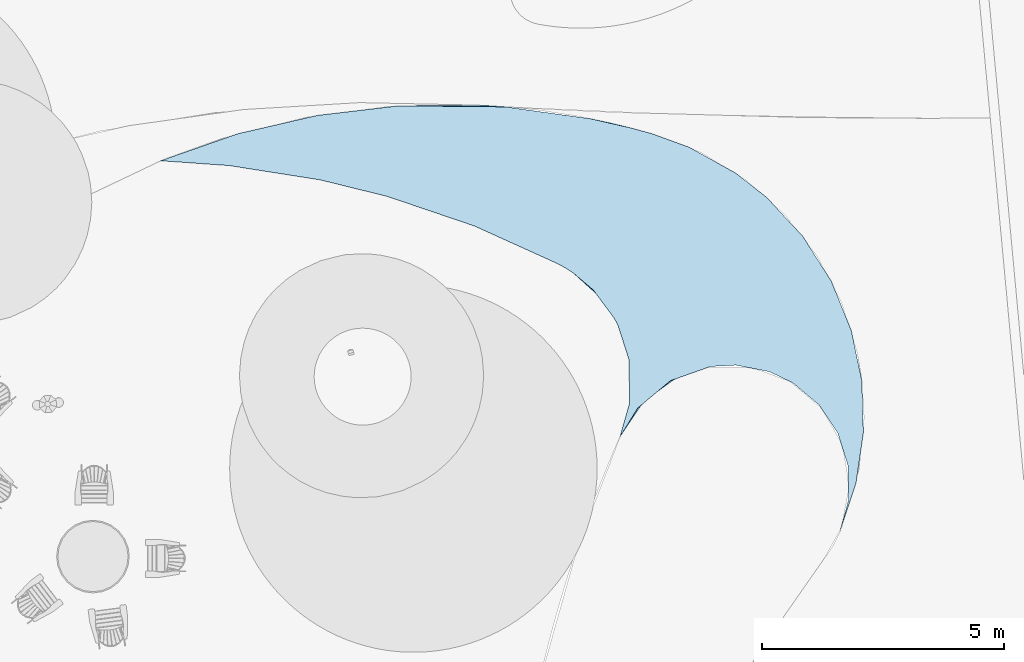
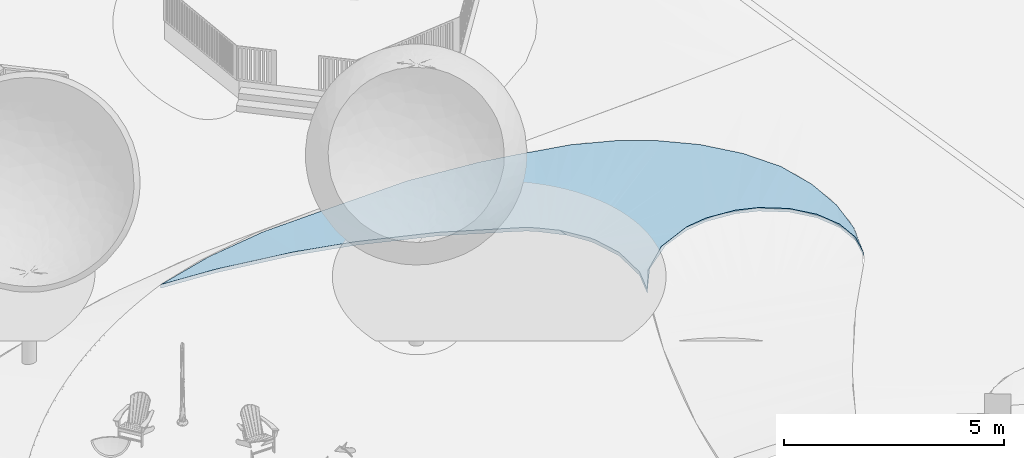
# One storey, part 47 of 75: 1 slab.
"""IFC2X3 building model written with IfcOpenShell, lengths in metres."""

from ifc_helpers import new_model, entity, si_unit, converted_unit, derived_unit, direction, origin, place, context, subcontext, project, spatial, face_set, surface_model, material, layer, layer_set, type_object, element, save


model = new_model("IFC2X3")

# Units and contexts
model_context = context("Model", 3, precision=1e-05, world=origin(), true_north=direction((6.123031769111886e-17, 1.0)))
body_context = subcontext(model_context, "Body", "Model", "MODEL_VIEW")
ifc_project = project(units=[si_unit("LENGTHUNIT", "METRE"), si_unit("AREAUNIT", "SQUARE_METRE"), si_unit("VOLUMEUNIT", "CUBIC_METRE"), converted_unit("PLANEANGLEUNIT", "DEGREE", entity("IfcRatioMeasure", 0.017453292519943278), si_unit("PLANEANGLEUNIT", "RADIAN"), dimensions=[0, 0, 0, 0, 0, 0, 0]), si_unit("MASSUNIT", "GRAM", prefix="KILO"), derived_unit("MASSDENSITYUNIT", [(si_unit("MASSUNIT", "GRAM", prefix="KILO"), 1), (si_unit("LENGTHUNIT", "METRE"), -3)]), derived_unit("IONCONCENTRATIONUNIT", [(si_unit("MASSUNIT", "GRAM", prefix="KILO"), 1), (si_unit("LENGTHUNIT", "METRE"), -3)]), derived_unit("MOMENTOFINERTIAUNIT", [(si_unit("LENGTHUNIT", "METRE"), 4)]), si_unit("TIMEUNIT", "SECOND"), si_unit("FREQUENCYUNIT", "HERTZ"), si_unit("THERMODYNAMICTEMPERATUREUNIT", "DEGREE_CELSIUS"), derived_unit("THERMALTRANSMITTANCEUNIT", [(si_unit("MASSUNIT", "GRAM", prefix="KILO"), 1), (si_unit("THERMODYNAMICTEMPERATUREUNIT", "KELVIN"), -1), (si_unit("TIMEUNIT", "SECOND"), -3)]), derived_unit("THERMALCONDUCTANCEUNIT", [(si_unit("MASSUNIT", "GRAM", prefix="KILO"), 1), (si_unit("THERMODYNAMICTEMPERATUREUNIT", "KELVIN"), -1), (si_unit("TIMEUNIT", "SECOND"), -3), (si_unit("LENGTHUNIT", "METRE"), 1)]), derived_unit("VOLUMETRICFLOWRATEUNIT", [(si_unit("LENGTHUNIT", "METRE"), 3), (si_unit("TIMEUNIT", "SECOND"), -1)]), derived_unit("MASSFLOWRATEUNIT", [(si_unit("MASSUNIT", "GRAM", prefix="KILO"), 1), (si_unit("TIMEUNIT", "SECOND"), -1)]), derived_unit("ROTATIONALFREQUENCYUNIT", [(si_unit("TIMEUNIT", "SECOND"), -1)]), si_unit("ELECTRICCURRENTUNIT", "AMPERE"), si_unit("ELECTRICVOLTAGEUNIT", "VOLT"), si_unit("POWERUNIT", "WATT"), si_unit("FORCEUNIT", "NEWTON", prefix="KILO"), si_unit("ILLUMINANCEUNIT", "LUX"), si_unit("LUMINOUSFLUXUNIT", "LUMEN"), si_unit("LUMINOUSINTENSITYUNIT", "CANDELA"), derived_unit("USERDEFINED", [(si_unit("MASSUNIT", "GRAM", prefix="KILO"), -1), (si_unit("LENGTHUNIT", "METRE"), -2), (si_unit("TIMEUNIT", "SECOND"), 3), (si_unit("LUMINOUSFLUXUNIT", "LUMEN"), 1)]), derived_unit("USERDEFINED", [(si_unit("MASSUNIT", "GRAM", prefix="KILO"), 1), (si_unit("TIMEUNIT", "SECOND"), -3), (si_unit("LENGTHUNIT", "METRE"), 3), (si_unit("ELECTRICCURRENTUNIT", "AMPERE"), -2)]), derived_unit("SOUNDPOWERUNIT", [(si_unit("MASSUNIT", "GRAM", prefix="KILO"), 1), (si_unit("TIMEUNIT", "SECOND"), -3), (si_unit("LENGTHUNIT", "METRE"), 2)]), derived_unit("SOUNDPRESSUREUNIT", [(si_unit("MASSUNIT", "GRAM", prefix="KILO"), 1), (si_unit("LENGTHUNIT", "METRE"), -1), (si_unit("TIMEUNIT", "SECOND"), -2)]), derived_unit("LINEARVELOCITYUNIT", [(si_unit("LENGTHUNIT", "METRE"), 1), (si_unit("TIMEUNIT", "SECOND"), -1)]), si_unit("PRESSUREUNIT", "PASCAL"), derived_unit("USERDEFINED", [(si_unit("MASSUNIT", "GRAM", prefix="KILO"), 1), (si_unit("LENGTHUNIT", "METRE"), -2), (si_unit("TIMEUNIT", "SECOND"), -2)]), derived_unit("LINEARFORCEUNIT", [(si_unit("MASSUNIT", "GRAM", prefix="KILO"), 1), (si_unit("TIMEUNIT", "SECOND"), -2)]), derived_unit("PLANARFORCEUNIT", [(si_unit("MASSUNIT", "GRAM", prefix="KILO"), 1), (si_unit("LENGTHUNIT", "METRE"), -1), (si_unit("TIMEUNIT", "SECOND"), -2)]), derived_unit("SPECIFICHEATCAPACITYUNIT", [(si_unit("THERMODYNAMICTEMPERATUREUNIT", "KELVIN"), -1), (si_unit("LENGTHUNIT", "METRE"), 2), (si_unit("TIMEUNIT", "SECOND"), -2)]), derived_unit("HEATINGVALUEUNIT", [(si_unit("LENGTHUNIT", "METRE"), 2), (si_unit("TIMEUNIT", "SECOND"), -2)]), derived_unit("VAPORPERMEABILITYUNIT", [(si_unit("LENGTHUNIT", "METRE"), -1), (si_unit("TIMEUNIT", "SECOND"), 1)]), derived_unit("DYNAMICVISCOSITYUNIT", [(si_unit("MASSUNIT", "GRAM", prefix="KILO"), 1), (si_unit("TIMEUNIT", "SECOND"), -1), (si_unit("LENGTHUNIT", "METRE"), -1)]), derived_unit("THERMALEXPANSIONCOEFFICIENTUNIT", [(si_unit("THERMODYNAMICTEMPERATUREUNIT", "KELVIN"), -1)]), derived_unit("MODULUSOFELASTICITYUNIT", [(si_unit("MASSUNIT", "GRAM", prefix="KILO"), 1), (si_unit("LENGTHUNIT", "METRE"), -1), (si_unit("TIMEUNIT", "SECOND"), -2)]), derived_unit("ISOTHERMALMOISTURECAPACITYUNIT", [(si_unit("LENGTHUNIT", "METRE"), 3), (si_unit("MASSUNIT", "GRAM", prefix="KILO"), -1)]), derived_unit("MOISTUREDIFFUSIVITYUNIT", [(si_unit("TIMEUNIT", "SECOND"), -1), (si_unit("LENGTHUNIT", "METRE"), 2)])], contexts=[model_context])

# Site, building, storey
site_placement = place(None, origin())
site = spatial("IfcSite", under=ifc_project, at=site_placement, Name="Default", CompositionType="ELEMENT")
building_placement = place(site_placement, origin())
building = spatial("IfcBuilding", under=site, at=building_placement, Name="Projeto", CompositionType="ELEMENT")
storey_placement = place(building_placement, origin())
storey = spatial("IfcBuildingStorey", under=building, at=storey_placement, Name="Nível 1", CompositionType="ELEMENT", Elevation=0.0)

# Slab
ifc_material = material(Name="cacao")
ifc_layer = layer(ifc_material, 0.1)
ifc_layer_set = layer_set([ifc_layer], Name="Piso:Piso cacão")
slab_type = type_object("IfcSlabType", Name="Piso:Piso cacão", PredefinedType="FLOOR", material=ifc_layer_set)
slab_placement = place(storey_placement, origin())
element("IfcSlab", 1, at=slab_placement, inside=storey, type_object=slab_type, material=ifc_material, Name="Piso:Piso cacão", ObjectType="Piso:Piso cacão", PredefinedType="FLOOR", context=body_context, shape_type="SurfaceModel", body=[
    surface_model("IfcFaceBasedSurfaceModel", [(12.975366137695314, 24.508262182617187, -2.3666667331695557), (12.975366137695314, 24.508262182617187, -2.4666665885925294), (12.178748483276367, 24.229718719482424, -2.4083333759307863), (14.619830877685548, 24.887532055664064, -2.483333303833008), (14.619830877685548, 24.887532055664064, -2.5833333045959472), (13.79759850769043, 24.697897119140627, -2.5249999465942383), (13.79759850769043, 24.697897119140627, -2.4249999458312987), (11.382131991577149, 23.951175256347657, -2.3500000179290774), (12.300493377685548, 24.27228821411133, -2.317248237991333), (15.457950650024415, 24.986019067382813, -2.6416666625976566), (15.457950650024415, 24.986019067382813, -2.541666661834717), (16.29607158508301, 25.084506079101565, -2.600000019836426), (16.29607158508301, 25.084506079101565, -2.7000000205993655), (17.396348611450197, 25.074134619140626, -2.566666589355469), (17.17659923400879, 25.088805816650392, -2.6733333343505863), (11.382131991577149, 23.951175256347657, -2.250000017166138), (19.148934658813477, 24.95714408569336, -2.6133332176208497), (18.49662680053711, 25.063765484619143, -2.5333334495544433), (19.368684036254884, 24.942475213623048, -2.506666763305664), (20.240741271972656, 24.8211826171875, -2.5800000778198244), (20.240741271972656, 24.8211826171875, -2.480000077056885), (21.09963070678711, 24.62546433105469, -2.4533333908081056), (20.671568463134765, 24.72947426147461, -2.566666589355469), (18.0571280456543, 25.09310555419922, -2.6466666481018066), (21.524593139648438, 24.509231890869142, -2.43999990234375), (21.524593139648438, 24.509231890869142, -2.5399999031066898), (23.251510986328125, 23.697132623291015, -2.2484351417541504), (23.896939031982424, 23.190303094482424, -2.166335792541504), (23.896939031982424, 23.190303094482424, -2.2663357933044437), (23.251510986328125, 23.697132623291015, -2.34843514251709), (24.63979833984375, 22.387807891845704, -2.056870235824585), (24.932978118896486, 21.9262872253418, -2.002137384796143), (24.932978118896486, 21.9262872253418, -2.102137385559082), (24.63979833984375, 22.387807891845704, -2.1568702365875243), (22.773621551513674, 23.962821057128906, -2.3031679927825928), (22.773621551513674, 23.962821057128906, -2.4031679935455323), (22.29573211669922, 24.228509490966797, -2.3579006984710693), (25.22615789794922, 21.464764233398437, -1.9474045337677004), (25.22615789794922, 21.464764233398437, -2.0474045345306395), (24.268367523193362, 22.789055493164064, -2.1116030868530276), (24.268367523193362, 22.789055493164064, -2.2116030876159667), (22.29573211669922, 24.228509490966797, -2.4579008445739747), (25.636888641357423, 20.451286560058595, -1.937938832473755), (25.43152443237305, 20.958025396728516, -1.9926716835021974), (25.43152443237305, 20.958025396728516, -1.892671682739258), (25.636888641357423, 20.451286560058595, -1.8379388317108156), (25.732526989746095, 17.2892888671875, -1.7633846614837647), (25.887538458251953, 18.3434384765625, -1.8215694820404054), (25.887538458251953, 18.3434384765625, -1.721569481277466), (25.732526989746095, 17.2892888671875, -1.6633846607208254), (25.39509409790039, 16.27864474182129, -1.6051999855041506), (25.39509409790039, 16.27864474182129, -1.70519998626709), (25.85532647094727, 19.4084350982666, -1.8797541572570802), (25.85532647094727, 19.4084350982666, -1.7797541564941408), (25.51582161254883, 17.828430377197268, -1.8370909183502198), (25.51582161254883, 17.828430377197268, -1.7370909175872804), (25.56841142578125, 17.660583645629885, -1.722436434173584), (25.56841142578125, 17.660583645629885, -1.8224364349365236), (21.904942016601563, 19.41247438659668, -2.1181090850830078), (21.820765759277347, 19.34209844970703, -2.1272681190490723), (21.883320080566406, 19.365910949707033, -2.22177267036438), (25.0648142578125, 18.770646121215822, -1.8250182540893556), (25.0648142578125, 18.770646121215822, -1.925018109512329), (24.967069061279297, 18.916872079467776, -1.9396727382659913), (24.967069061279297, 18.916872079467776, -1.839672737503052), (25.35804984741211, 18.33196824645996, -1.781054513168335), (25.35804984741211, 18.33196824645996, -1.8810545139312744), (25.162559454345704, 18.62442016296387, -1.910363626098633), (25.162559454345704, 18.62442016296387, -1.8103636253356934), (24.832088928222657, 19.02963496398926, -1.9543272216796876), (24.832088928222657, 19.02963496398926, -1.854327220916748), (21.527390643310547, 19.10914638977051, -2.2584090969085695), (21.616373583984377, 19.173337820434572, -2.249250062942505), (21.56823698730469, 19.130968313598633, -2.154745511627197), (23.950393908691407, 19.595913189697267, -2.042254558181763), (23.950393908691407, 19.595913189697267, -1.9422545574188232), (24.42715085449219, 19.36792361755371, -1.8982909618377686), (24.42715085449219, 19.36792361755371, -1.9982909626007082), (24.69711112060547, 19.142397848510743, -1.8689818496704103), (24.69711112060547, 19.142397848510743, -1.9689818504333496), (21.28848662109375, 18.88952607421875, -2.2858863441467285), (21.349427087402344, 18.98076469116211, -2.276727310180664), (21.31570588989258, 18.919838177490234, -2.1822227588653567), (21.139125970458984, 18.699809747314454, -2.206036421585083), (21.105669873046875, 18.615809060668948, -2.313363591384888), (21.16661033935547, 18.707047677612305, -2.3042045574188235), (25.443844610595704, 16.456474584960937, -1.620563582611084), (22.229129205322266, 19.54688362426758, -2.188799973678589), (22.313054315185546, 19.573179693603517, -2.181472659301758), (22.31880745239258, 19.558564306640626, -2.0814726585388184), (25.58109669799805, 16.95713588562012, -1.7638182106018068), (25.58109669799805, 16.95713588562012, -1.6638182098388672), (25.48809539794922, 16.617890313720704, -1.6345090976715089), (25.48809539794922, 16.617890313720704, -1.7345090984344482), (21.399882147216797, 18.99021527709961, -2.1730635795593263), (25.577924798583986, 17.132998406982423, -1.7784726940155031), (25.577924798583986, 17.132998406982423, -1.6784726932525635), (25.463229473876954, 17.99627594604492, -1.7517454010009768), (25.463229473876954, 17.99627594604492, -1.851745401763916), (21.972300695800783, 19.430102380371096, -2.2126136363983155), (22.06128363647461, 19.49429264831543, -2.203454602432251), (22.008407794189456, 19.448996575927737, -2.1089500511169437), (25.574752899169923, 17.308859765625, -1.6931273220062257), (25.574752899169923, 17.308859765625, -1.793127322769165), (21.0929241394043, 18.624982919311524, -2.2133635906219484), (21.04672230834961, 18.55015725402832, -2.2206909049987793), (21.484058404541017, 19.06059121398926, -2.1639045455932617), (21.70535419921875, 19.237529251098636, -2.2400908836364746), (21.652413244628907, 19.201344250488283, -2.1455863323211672), (21.22754848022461, 18.798286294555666, -2.295045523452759), (21.23152963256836, 18.84946107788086, -2.191381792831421), (20.86191498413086, 18.250852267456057, -2.250000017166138), (20.86191498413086, 18.250852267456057, -2.3500000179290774), (20.954318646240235, 18.400504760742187, -2.2353453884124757), (21.43840770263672, 19.04495612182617, -2.267568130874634), (22.111873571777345, 19.485519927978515, -2.0997908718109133), (20.983793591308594, 18.433330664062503, -2.3316818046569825), (22.732670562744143, 19.704655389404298, -2.1448363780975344), (22.732670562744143, 19.704655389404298, -2.044836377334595), (22.564822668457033, 19.652065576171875, -2.1594908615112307), (21.736589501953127, 19.271721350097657, -2.1364272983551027), (21.79433713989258, 19.30171951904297, -2.2309318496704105), (23.777878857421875, 19.630194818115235, -1.9569090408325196), (23.777878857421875, 19.630194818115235, -2.056909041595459), (23.605366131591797, 19.664476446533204, -2.0715636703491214), (23.605366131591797, 19.664476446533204, -1.9715636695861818), (23.260338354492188, 19.733037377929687, -2.0008727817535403), (23.260338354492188, 19.733037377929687, -2.1008727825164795), (22.396977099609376, 19.599473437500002, -2.174145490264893), (22.52573900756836, 19.631611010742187, -2.0631545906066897), (22.215341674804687, 19.522043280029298, -2.0906318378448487), (22.42227322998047, 19.59508765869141, -2.072313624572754), (21.044731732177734, 18.52456928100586, -2.322522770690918), (25.44159358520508, 16.44826810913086, -1.719854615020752), (25.746107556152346, 19.929860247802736, -1.8088465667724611), (25.563809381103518, 16.78396738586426, -1.6342923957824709), (25.87143246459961, 18.875937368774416, -1.7506617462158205), (25.8100315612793, 17.816363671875, -1.6924770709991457), (25.746107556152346, 19.929860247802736, -1.9088465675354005), (25.563809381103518, 16.78396738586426, -1.7342923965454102), (25.87143246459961, 18.875937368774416, -1.8506617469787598), (25.8100315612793, 17.816363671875, -1.792477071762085), (20.961762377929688, 18.598987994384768, -2.3500000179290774), (20.961762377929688, 18.598987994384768, -2.250000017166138), (20.936905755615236, 20.195839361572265, -2.3500000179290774), (20.936905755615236, 20.195839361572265, -2.250000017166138), (21.047538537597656, 19.850981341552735, -2.250000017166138), (21.047538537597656, 19.850981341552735, -2.3500000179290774), (21.05457299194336, 19.399051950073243, -2.250000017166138), (21.05457299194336, 19.399051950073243, -2.3500000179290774), (20.826272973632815, 20.54069970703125, -2.250000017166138), (20.826272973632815, 20.54069970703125, -2.3500000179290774), (20.786135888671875, 20.622145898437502, -2.3500000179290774), (20.786135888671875, 20.622145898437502, -2.250000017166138), (21.061607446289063, 18.947123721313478, -2.250000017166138), (21.061607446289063, 18.947123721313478, -2.3500000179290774), (20.743352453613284, 20.702231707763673, -2.3500000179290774), (20.743352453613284, 20.702231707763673, -2.250000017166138), (20.433843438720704, 21.149527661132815, -2.3500000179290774), (20.527626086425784, 20.99314418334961, -2.250000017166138), (19.89706224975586, 21.63587471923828, -2.250000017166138), (19.89706224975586, 21.63587471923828, -2.3500000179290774), (19.744425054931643, 21.73421290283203, -2.3500000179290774), (19.744425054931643, 21.73421290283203, -2.250000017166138), (20.16545284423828, 21.392701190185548, -2.3500000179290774), (19.585674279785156, 21.822344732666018, -2.3500000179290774), (19.585674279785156, 21.822344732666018, -2.250000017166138), (20.311902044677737, 21.284056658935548, -2.250000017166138), (17.856677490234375, 22.605103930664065, -2.3500000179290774), (18.47831047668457, 22.323676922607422, -2.250000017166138), (18.721177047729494, 22.213725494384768, -2.3500000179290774), (16.95808233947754, 22.91016670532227, -2.3500000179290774), (16.95808233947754, 22.91016670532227, -2.250000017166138), (17.856677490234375, 22.605103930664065, -2.250000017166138), (16.059487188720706, 23.21522947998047, -2.3500000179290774), (16.059487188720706, 23.21522947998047, -2.250000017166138), (14.677163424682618, 23.55595751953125, -2.3500000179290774), (14.677163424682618, 23.55595751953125, -2.250000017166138), (13.739729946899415, 23.70345316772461, -2.3500000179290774), (13.739729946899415, 23.70345316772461, -2.250000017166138), (12.80229646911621, 23.850951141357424, -2.250000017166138), (12.80229646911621, 23.850951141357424, -2.3500000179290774), (21.460524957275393, 22.41618522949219, -2.2713725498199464), (20.419762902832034, 21.13860042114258, -2.250000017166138), (21.530560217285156, 22.874994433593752, -2.29574024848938), (20.710826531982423, 23.07255446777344, -2.345000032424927), (21.111339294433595, 23.255694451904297, -2.343561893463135), (21.770461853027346, 22.39460050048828, -2.2568449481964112), (20.635489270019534, 20.847687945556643, -2.250000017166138), (21.98401160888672, 22.202588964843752, -2.237346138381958), (20.20819209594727, 21.372011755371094, -2.250000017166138), (21.180697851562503, 22.907671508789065, -2.313215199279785), (22.01571199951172, 24.330447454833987, -2.3877131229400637), (20.1044821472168, 21.45996685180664, -2.250000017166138), (19.989531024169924, 21.557453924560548, -2.250000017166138), (23.574200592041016, 23.443685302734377, -2.2073854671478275), (22.516051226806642, 22.38836134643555, -2.2164466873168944), (22.32013760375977, 21.946260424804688, -2.208167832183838), (23.31479549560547, 21.44746994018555, -2.105586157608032), (20.764744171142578, 20.662189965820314, -2.250000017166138), (23.77391630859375, 22.822020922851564, -2.1534992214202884), (23.60585912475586, 22.318877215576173, -2.1359610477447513), (23.023734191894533, 20.576060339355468, -2.0752112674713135), (20.7977235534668, 20.5986310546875, -2.250000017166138), (20.809308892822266, 20.575118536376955, -2.250000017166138), (20.670182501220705, 24.72330487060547, -2.4666665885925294), (20.38334187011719, 23.12619305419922, -2.349110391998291), (20.10313804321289, 22.88581237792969, -2.3319918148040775), (19.67248991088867, 21.77414767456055, -2.250000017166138), (19.93124853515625, 22.809044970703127, -2.3260311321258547), (19.81359060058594, 21.68965283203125, -2.250000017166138), (20.349995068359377, 22.70535130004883, -2.3201749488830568), (20.688065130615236, 23.032368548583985, -2.342342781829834), (20.781278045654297, 23.68091035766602, -2.3869570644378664), (20.4554583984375, 24.772229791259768, -2.473333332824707), (20.27536008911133, 23.79763811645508, -2.399287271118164), (21.312110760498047, 24.567342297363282, -2.446666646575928), (19.90404321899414, 23.279809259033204, -2.3617833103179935), (21.051056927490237, 19.625016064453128, -2.250000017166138), (21.05809138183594, 19.17308783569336, -2.250000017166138), (21.073690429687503, 18.59381156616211, -2.2164154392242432), (15.368324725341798, 23.38559349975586, -2.250000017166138), (14.208446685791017, 23.629706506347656, -2.250000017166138), (11.899053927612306, 23.914693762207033, -2.250000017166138), (12.17875080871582, 24.22970941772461, -2.3083333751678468), (16.846210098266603, 25.07931569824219, -2.5833333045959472), (16.945077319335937, 22.91458271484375, -2.250000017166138), (18.28892668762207, 22.409415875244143, -2.250000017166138), (18.932652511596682, 25.00310174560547, -2.519999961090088), (17.94648712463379, 25.068939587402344, -2.5499998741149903), (17.400877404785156, 22.75984332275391, -2.250000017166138), (19.15342624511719, 22.018035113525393, -2.250000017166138), (18.721177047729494, 22.213725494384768, -2.250000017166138), (19.804707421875, 24.881804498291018, -2.4933332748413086), (16.50228225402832, 23.06490609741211, -2.250000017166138), (22.99650329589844, 19.718842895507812, -2.0228545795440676), (24.12603435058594, 19.51191134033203, -1.926057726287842), (20.72694880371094, 22.682685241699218, -2.4128262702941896), (20.92600642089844, 23.452445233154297, -2.4701201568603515), (21.91016262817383, 24.36887069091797, -2.4989503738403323), (21.16161762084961, 22.905239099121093, -2.4138198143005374), (21.477635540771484, 22.83739440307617, -2.3956600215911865), (20.29964930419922, 21.271113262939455, -2.3500000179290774), (21.57091821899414, 22.532094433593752, -2.3730659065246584), (21.677383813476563, 22.228433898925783, -2.3530280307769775), (20.076539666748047, 21.473261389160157, -2.3500000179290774), (22.73707494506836, 22.27520778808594, -2.297106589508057), (20.66597578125, 20.814055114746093, -2.3500000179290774), (22.088054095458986, 22.264452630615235, -2.3347967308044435), (20.58859910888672, 20.925878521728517, -2.3500000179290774), (20.511220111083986, 21.03770425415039, -2.3500000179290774), (23.574200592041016, 23.443685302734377, -2.3073854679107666), (23.31479549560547, 21.44746994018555, -2.2055861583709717), (20.764744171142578, 20.662189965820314, -2.3500000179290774), (23.77391630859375, 22.822020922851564, -2.2534992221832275), (23.60585912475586, 22.318877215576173, -2.2359610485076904), (23.023734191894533, 20.576060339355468, -2.175211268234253), (20.7977235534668, 20.5986310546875, -2.3500000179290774), (20.809308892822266, 20.575118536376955, -2.3500000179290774), (19.900929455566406, 22.7332728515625, -2.420337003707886), (19.67248991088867, 21.77414767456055, -2.3500000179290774), (19.81359060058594, 21.68965283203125, -2.3500000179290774), (20.25795650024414, 22.83267608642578, -2.428528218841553), (20.338179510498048, 22.669100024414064, -2.417732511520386), (20.206450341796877, 23.182173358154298, -2.453481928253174), (20.222188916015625, 23.81764852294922, -2.5012682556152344), (19.90404321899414, 23.279809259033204, -2.461783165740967), (20.792677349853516, 23.692963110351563, -2.487746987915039), (21.098077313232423, 24.61934144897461, -2.553333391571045), (21.349657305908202, 24.554394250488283, -2.5454687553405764), (20.710826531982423, 23.07255446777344, -2.4449998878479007), (21.051056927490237, 19.625016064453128, -2.3500000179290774), (22.348010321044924, 19.584125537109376, -2.178420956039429), (21.05809138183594, 19.17308783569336, -2.3500000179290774), (20.96815501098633, 18.621278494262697, -2.3500000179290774), (15.368324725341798, 23.38559349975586, -2.3500000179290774), (14.208446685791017, 23.629706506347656, -2.3500000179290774), (11.899053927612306, 23.914693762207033, -2.3500000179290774), (16.508785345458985, 23.062699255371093, -2.3500000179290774), (16.78419992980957, 25.086880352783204, -2.6852172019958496), (19.694832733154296, 24.889134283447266, -2.5966667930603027), (19.159681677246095, 22.015202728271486, -2.3500000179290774), (18.28892668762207, 22.409415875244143, -2.3500000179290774), (17.616861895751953, 25.09093126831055, -2.660000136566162), (18.60302844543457, 25.025095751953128, -2.6299999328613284), (17.407380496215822, 22.757636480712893, -2.3500000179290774), (22.99650329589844, 19.718842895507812, -2.122854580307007), (24.12603435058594, 19.51191134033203, -2.026057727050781)], [face_set([[[0, 1, 2]], [[3, 4, 5, 6]], [[2, 7, 8]], [[9, 10, 11, 12]], [[6, 5, 1, 0]], [[10, 9, 4, 3]], [[13, 14, 11]], [[7, 15, 8]], [[16, 17, 18]], [[18, 19, 16]], [[20, 21, 22]], [[13, 23, 14]], [[11, 14, 12]], [[24, 25, 21]], [[0, 2, 8]], [[16, 23, 17]], [[19, 18, 20]], [[25, 22, 21]], [[19, 20, 22]], [[17, 23, 13]], [[26, 27, 28, 29]], [[30, 31, 32, 33]], [[34, 29, 35, 36]], [[31, 37, 38, 32]], [[39, 30, 33, 40]], [[27, 39, 40, 28]], [[41, 25, 24, 36]], [[34, 26, 29]], [[42, 43, 44, 45]], [[46, 47, 48, 49]], [[49, 50, 51, 46]], [[37, 44, 43, 38]], [[52, 42, 45, 53]], [[36, 35, 41]], [[47, 52, 53, 48]], [[54, 55, 56, 57]], [[58, 59, 60]], [[61, 62, 63, 64]], [[65, 66, 67, 68]], [[69, 70, 64, 63]], [[71, 72, 73]], [[74, 75, 76, 77]], [[77, 76, 78, 79]], [[80, 81, 82]], [[83, 84, 85]], [[51, 86, 50]], [[87, 88, 89]], [[90, 91, 92, 93]], [[94, 82, 81]], [[95, 96, 91, 90]], [[66, 65, 97, 98]], [[99, 100, 101]], [[57, 56, 102, 103]], [[104, 105, 84]], [[73, 106, 71]], [[101, 58, 99]], [[72, 107, 108]], [[109, 80, 110]], [[111, 112, 113]], [[114, 94, 81]], [[87, 115, 100]], [[109, 110, 83]], [[105, 113, 116]], [[106, 94, 114]], [[83, 104, 84]], [[117, 118, 119]], [[120, 121, 59]], [[74, 75, 122, 123]], [[124, 125, 126, 127]], [[106, 114, 71]], [[118, 117, 127, 126]], [[128, 119, 129]], [[87, 89, 130]], [[82, 110, 80]], [[115, 101, 100]], [[60, 99, 58]], [[120, 108, 107]], [[107, 121, 120]], [[108, 73, 72]], [[88, 128, 89]], [[130, 115, 87]], [[128, 129, 131, 89]], [[121, 60, 59]], [[116, 132, 105]], [[85, 109, 83]], [[132, 84, 105]], [[129, 119, 118]], [[116, 113, 112]], [[98, 97, 55, 54]], [[68, 67, 62, 61]], [[79, 78, 70, 69]], [[92, 86, 133]], [[92, 133, 93]], [[86, 51, 133]], [[103, 102, 96, 95]], [[123, 122, 125, 124]], [[134, 53, 64]], [[91, 135, 50, 92]], [[134, 78, 45]], [[68, 136, 65]], [[49, 91, 102]], [[136, 68, 53]], [[56, 48, 137]], [[49, 102, 137]], [[68, 64, 53]], [[134, 64, 78]], [[48, 56, 97]], [[56, 137, 102]], [[49, 135, 91]], [[76, 45, 78]], [[48, 65, 136]], [[97, 65, 48]], [[138, 52, 63]], [[139, 51, 93, 90]], [[138, 79, 42]], [[67, 140, 66]], [[46, 90, 103]], [[140, 67, 52]], [[57, 47, 141]], [[46, 103, 141]], [[67, 63, 52]], [[138, 63, 79]], [[47, 57, 98]], [[57, 141, 103]], [[46, 139, 90]], [[77, 42, 79]], [[47, 66, 140]], [[98, 66, 47]], [[142, 143, 111, 112]], [[144, 145, 146, 147]], [[148, 149, 147, 146]], [[150, 151, 152, 153]], [[149, 148, 154, 155]], [[155, 154, 143, 142]], [[151, 150, 145, 144]], [[156, 157, 153, 152]], [[158, 159, 156]], [[160, 161, 162, 163]], [[160, 164, 161]], [[163, 162, 165, 166]], [[159, 157, 156]], [[164, 160, 167]], [[158, 167, 159]], [[167, 158, 164]], [[168, 169, 170]], [[171, 172, 173, 168]], [[166, 170, 169]], [[174, 175, 172, 171]], [[168, 173, 169]], [[170, 166, 165]], [[176, 177, 175, 174]], [[178, 179, 177, 176]], [[180, 181, 7, 15]], [[181, 180, 179, 178]], [[167, 182, 183]], [[184, 34, 182]], [[185, 24, 186]], [[183, 187, 159]], [[188, 159, 189]], [[184, 167, 190]], [[36, 191, 192]], [[189, 159, 187]], [[186, 193, 194]], [[190, 191, 184]], [[192, 191, 186]], [[193, 186, 191]], [[184, 191, 36]], [[184, 36, 34]], [[182, 187, 183]], [[195, 189, 26]], [[26, 187, 34]], [[196, 189, 195]], [[26, 189, 187]], [[188, 197, 157]], [[194, 160, 185]], [[188, 196, 197]], [[27, 196, 195]], [[192, 186, 24]], [[185, 186, 194]], [[187, 182, 34]], [[184, 182, 167]], [[190, 193, 191]], [[189, 196, 188]], [[197, 196, 27]], [[198, 153, 199]], [[27, 200, 157]], [[201, 198, 199]], [[202, 203, 198]], [[202, 118, 204]], [[201, 199, 200]], [[150, 204, 118]], [[157, 200, 199]], [[153, 198, 203]], [[202, 204, 203]], [[205, 21, 206]], [[206, 163, 207]], [[166, 208, 209]], [[207, 205, 206]], [[210, 206, 211]], [[163, 206, 210]], [[211, 212, 160]], [[213, 211, 206]], [[214, 205, 215]], [[21, 216, 24, 213]], [[163, 207, 208]], [[209, 207, 208]], [[209, 217, 215]], [[214, 215, 217]], [[217, 209, 166]], [[205, 207, 215]], [[214, 217, 20]], [[209, 215, 207]], [[210, 211, 160]], [[206, 21, 213]], [[24, 212, 213]], [[211, 213, 212]], [[145, 115, 146]], [[120, 218, 58]], [[129, 145, 150]], [[73, 219, 148]], [[120, 73, 148]], [[220, 143, 110]], [[150, 118, 129]], [[154, 110, 143]], [[143, 220, 111]], [[115, 58, 146]], [[219, 94, 154]], [[115, 145, 89]], [[146, 58, 218]], [[120, 148, 218]], [[129, 89, 145]], [[110, 154, 94]], [[219, 73, 94]], [[11, 221, 175]], [[179, 0, 180]], [[10, 3, 177]], [[10, 177, 221]], [[3, 222, 177]], [[221, 11, 10]], [[223, 224, 15]], [[6, 222, 3]], [[6, 179, 222]], [[224, 180, 0]], [[180, 224, 223]], [[0, 179, 6]], [[13, 225, 226]], [[17, 227, 228]], [[229, 13, 230]], [[173, 17, 229]], [[231, 18, 232]], [[231, 233, 18]], [[18, 228, 232]], [[11, 234, 225]], [[166, 233, 20]], [[166, 233, 231]], [[13, 226, 230]], [[173, 229, 230]], [[234, 11, 175]], [[234, 226, 225]], [[227, 17, 173]], [[227, 232, 228]], [[39, 30, 126]], [[125, 126, 30]], [[235, 39, 126]], [[75, 125, 37]], [[37, 44, 75]], [[236, 75, 44]], [[39, 235, 27]], [[236, 44, 76]], [[27, 235, 118]], [[31, 125, 30]], [[44, 45, 76]], [[31, 37, 125]], [[237, 238, 239]], [[240, 41, 241]], [[241, 242, 164]], [[241, 35, 243]], [[244, 158, 243]], [[240, 245, 237]], [[161, 237, 245]], [[246, 247, 248]], [[240, 239, 41]], [[241, 164, 240]], [[243, 35, 29]], [[245, 240, 164]], [[158, 242, 243]], [[241, 41, 35]], [[238, 25, 239]], [[240, 237, 239]], [[238, 237, 161]], [[241, 243, 242]], [[249, 244, 248]], [[29, 244, 243]], [[250, 158, 244]], [[247, 246, 156]], [[248, 251, 246]], [[29, 248, 244]], [[251, 28, 246]], [[251, 248, 29]], [[247, 249, 248]], [[250, 244, 249]], [[252, 152, 253]], [[28, 254, 156]], [[255, 252, 253]], [[256, 257, 252]], [[256, 117, 258]], [[255, 253, 254]], [[151, 258, 117]], [[156, 254, 253]], [[152, 252, 257]], [[256, 258, 257]], [[259, 260, 165]], [[261, 262, 263]], [[264, 162, 260]], [[265, 266, 19]], [[267, 263, 262]], [[22, 264, 265]], [[264, 259, 265]], [[268, 264, 22]], [[261, 162, 262]], [[269, 25, 270]], [[262, 162, 264]], [[263, 270, 161]], [[262, 264, 268]], [[261, 263, 161]], [[270, 267, 269]], [[268, 269, 267]], [[268, 267, 262]], [[263, 267, 270]], [[22, 265, 19]], [[266, 265, 259]], [[266, 259, 165]], [[260, 259, 264]], [[147, 144, 100]], [[107, 271, 60]], [[149, 107, 71]], [[272, 144, 117]], [[271, 107, 149]], [[60, 147, 100]], [[81, 109, 155]], [[151, 117, 144]], [[71, 81, 273]], [[274, 116, 112]], [[155, 109, 274]], [[271, 147, 60]], [[144, 272, 100]], [[84, 274, 109]], [[71, 273, 149]], [[81, 155, 273]], [[274, 84, 116]], [[12, 275, 174]], [[5, 276, 4]], [[9, 176, 275]], [[4, 276, 176]], [[5, 178, 276]], [[277, 2, 7]], [[178, 1, 181]], [[2, 181, 1]], [[9, 4, 176]], [[1, 178, 5]], [[181, 2, 277]], [[275, 12, 9]], [[171, 14, 278]], [[14, 279, 278]], [[170, 280, 281]], [[16, 170, 282]], [[280, 170, 16]], [[283, 14, 171]], [[279, 174, 278]], [[280, 19, 281]], [[12, 174, 279]], [[281, 19, 165]], [[282, 284, 16]], [[284, 23, 168]], [[171, 285, 283]], [[23, 168, 285]], [[282, 168, 284]], [[285, 23, 283]], [[40, 33, 127]], [[124, 127, 33]], [[286, 40, 127]], [[74, 124, 38]], [[38, 43, 74]], [[287, 74, 43]], [[40, 286, 28]], [[287, 43, 77]], [[28, 286, 117]], [[32, 124, 33]], [[43, 42, 77]], [[32, 38, 124]]])]),
])

save(model, "model.ifc")
